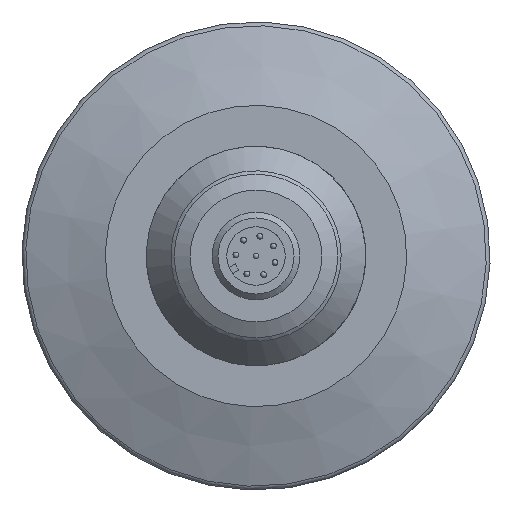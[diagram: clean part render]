
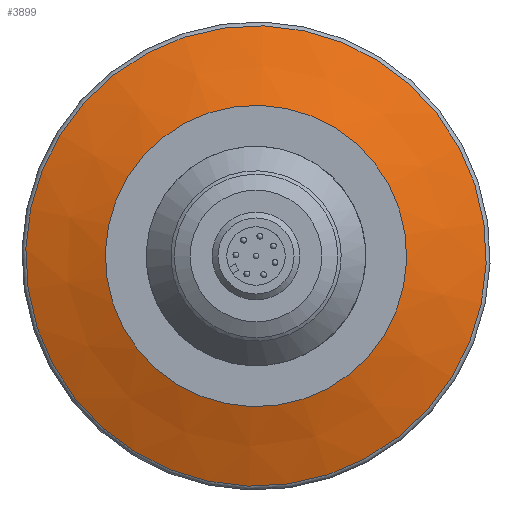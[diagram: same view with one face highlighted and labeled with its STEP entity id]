
A CAD part, front view. The second image highlights one B-rep face of the part: STEP entity #3899.
In plain terms, the highlighted conical face has half-angle 70 degrees and reference radius 31.474 mm.
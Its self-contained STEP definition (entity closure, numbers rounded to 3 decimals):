
#280=CONICAL_SURFACE('',#4065,31.474,1.222);
#1324=ORIENTED_EDGE('',*,*,#1709,.F.);
#1325=ORIENTED_EDGE('',*,*,#1710,.T.);
#1709=EDGE_CURVE('',#1972,#1972,#2039,.T.);
#1710=EDGE_CURVE('',#1973,#1973,#2040,.T.);
#1972=VERTEX_POINT('',#9103);
#1973=VERTEX_POINT('',#9106);
#2039=CIRCLE('',#4064,31.474);
#2040=CIRCLE('',#4066,20.598);
#2259=EDGE_LOOP('',(#1324));
#2260=EDGE_LOOP('',(#1325));
#2494=FACE_BOUND('',#2259,.T.);
#2495=FACE_BOUND('',#2260,.T.);
#3899=ADVANCED_FACE('',(#2494,#2495),#280,.T.);
#4064=AXIS2_PLACEMENT_3D('',#9102,#4511,#4512);
#4065=AXIS2_PLACEMENT_3D('',#9104,#4513,#4514);
#4066=AXIS2_PLACEMENT_3D('',#9105,#4515,#4516);
#4511=DIRECTION('',(0.,1.,0.));
#4512=DIRECTION('',(-0.618,0.,0.786));
#4513=DIRECTION('',(0.,1.,0.));
#4514=DIRECTION('',(-0.618,0.,0.786));
#4515=DIRECTION('',(0.,1.,0.));
#4516=DIRECTION('',(-0.618,0.,0.786));
#9102=CARTESIAN_POINT('',(0.,3.865,0.));
#9103=CARTESIAN_POINT('',(-19.456,3.865,24.74));
#9104=CARTESIAN_POINT('',(0.,3.865,0.));
#9105=CARTESIAN_POINT('',(0.,-0.094,0.));
#9106=CARTESIAN_POINT('',(-12.733,-0.094,16.191));
